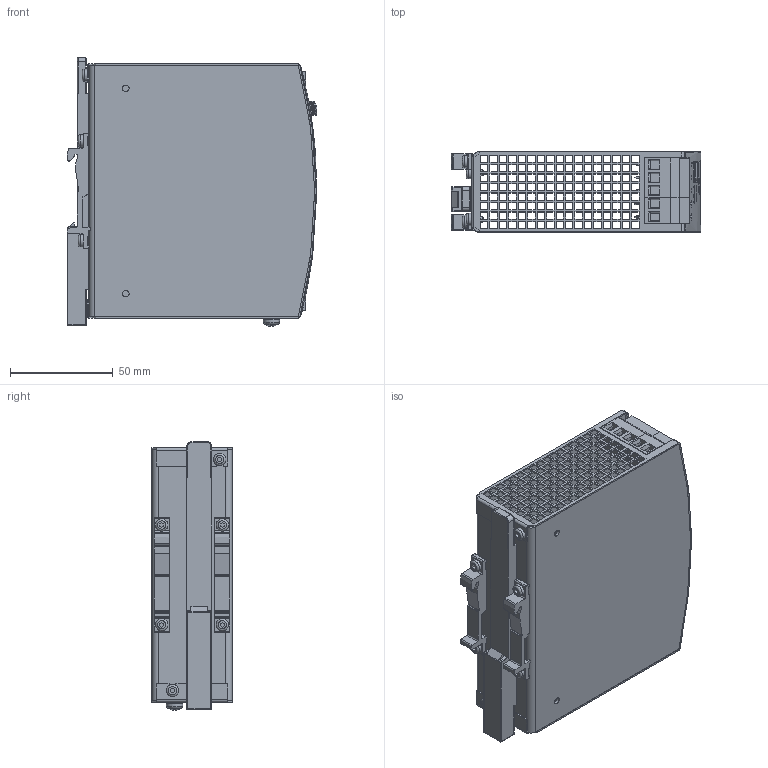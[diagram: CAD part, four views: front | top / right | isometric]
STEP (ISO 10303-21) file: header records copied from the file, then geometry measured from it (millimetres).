
FILE_DESCRIPTION(/* description */ ('HOUSING BODY','CAx-IF Rec.Pracs.---Representation and Presentation of Product Manufacturing Information (PMI)---3.8---2014-02-18'),/* implementation_level */ '2;1');
FILE_NAME(/* name */ 'L:\MKT-GER\Daten von KO\CP10.361 (410.03)\md3_cp10_361.stp',/* time_stamp */ '2016-10-19T13:04:43+02:00',/* author */ ('rahns'),/* organization */ (''),/* preprocessor_version */ 'ST-DEVELOPER v16.1',/* originating_system */ 'Autodesk Inventor 2016',/* authorisation */ '');
FILE_SCHEMA (('AP242_MANAGED_MODEL_BASED_3D_ENGINEERING_MIM_LF { 1 0 10303 442 1 1 4 }'));
Products named in the file (14): HOUSING BODY 410.00; HOUSING COVER 410.00; FRONTFOIL 410.03; MKT_SLIDER; MKT_SCREW 3x6; MKT_T HOLDER; MKT_SCREW 4x8; MKT_WASHER 4; MKT_LP3BK-D2; MKT_LP2BK-D2; XT-LP2SW-R6; MKT_LED GN; MKT_POTI COVER; 410.03
Assembly tree (20 placements, depth 2):
  410.03
    HOUSING BODY 410.00
    HOUSING COVER 410.00
    FRONTFOIL 410.03
    MKT_SLIDER
    MKT_SCREW 3x6  x6
    MKT_T HOLDER  x2
    MKT_SCREW 4x8
    MKT_WASHER 4
    MKT_LP3BK-D2  x2
    MKT_LP2BK-D2
    XT-LP2SW-R6
    MKT_LED GN
    MKT_POTI COVER
Bounding box: 121.72 x 39 x 130.77 mm (x, y, z)
Volume: 79842.1 mm3; surface area: 107230 mm2
Topology: 21 solids, 21 shells, 2483 faces, 6947 edges, 4608 vertices
Faces by surface type: plane 1989, cylinder 228, bspline 204, torus 25, cone 24, sphere 13
Full cylindrical faces by diameter (mm): 0.05 x2, 0.3 x4, 2.45 x2, 2.7 x1, 3 x6, 3.1 x4, 3.2 x3, 3.5 x1, 3.621 x1, 4 x1, 4.355 x1, 4.5 x1, 4.6 x1, 5.15 x8, 6 x6
Entity records: 78023 total; most frequent: CARTESIAN_POINT 19174, ORIENTED_EDGE 12574, DIRECTION 10635, EDGE_CURVE 6287, LINE 5171, VECTOR 5171, VERTEX_POINT 4191, EDGE_LOOP 2956
